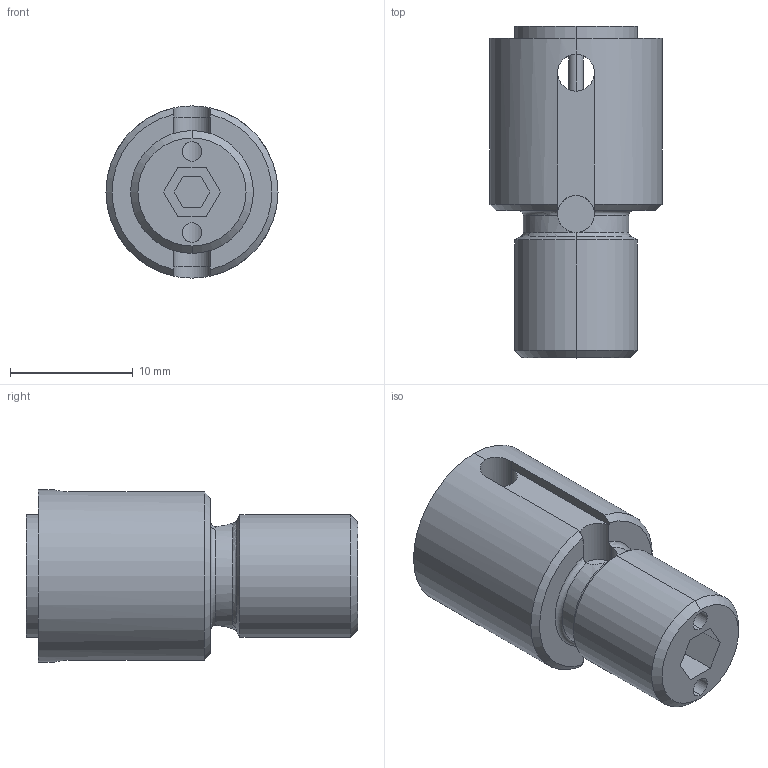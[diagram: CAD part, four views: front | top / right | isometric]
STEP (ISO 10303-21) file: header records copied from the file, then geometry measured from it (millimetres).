
FILE_DESCRIPTION (( 'STEP AP203' ), '1' );
FILE_NAME ('SGD-1410LV.STEP', '2018-07-25T14:44:54', ( 'Balzi' ), ( '' ), 'SwSTEP 2.0', 'SolidWorks 2017', '' );
FILE_SCHEMA (( 'CONFIG_CONTROL_DESIGN' ));
Length unit declared in the file: millimetre
Products named in the file (1): SGD-1410LV
Bounding box: 14 x 27 x 14 mm (x, y, z)
Volume: 2827.2 mm3; surface area: 1689.6 mm2
Topology: 1 solids, 1 shells, 60 faces, 162 edges, 104 vertices
Faces by surface type: plane 28, cylinder 22, cone 6, torus 4
Entity records: 2159 total; most frequent: CARTESIAN_POINT 597, ORIENTED_EDGE 320, DIRECTION 294, EDGE_CURVE 160, AXIS2_PLACEMENT_3D 105, VERTEX_POINT 102, VECTOR 84, LINE 84
